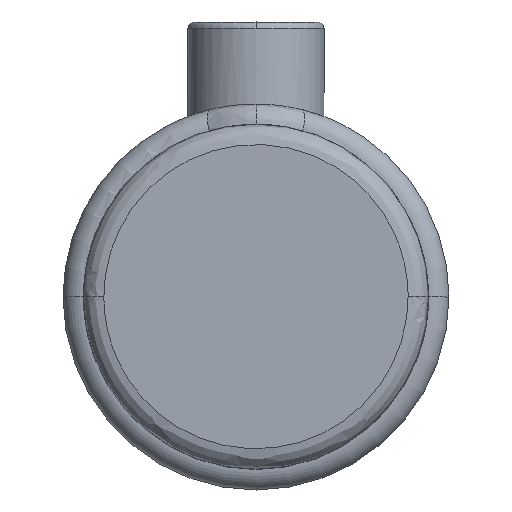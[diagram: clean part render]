
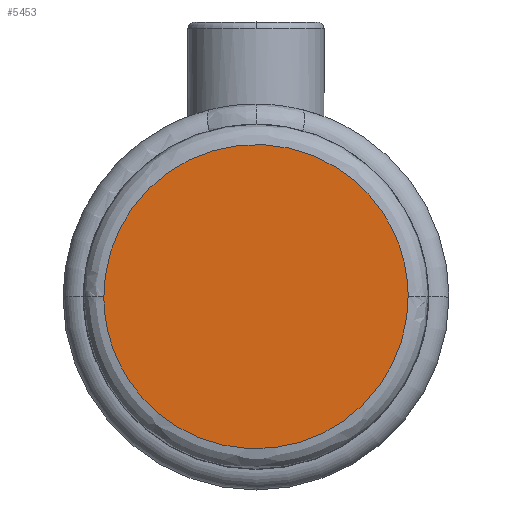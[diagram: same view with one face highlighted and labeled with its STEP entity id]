
A CAD part, top view. The second image highlights one B-rep face of the part: STEP entity #5453.
In plain terms, the highlighted planar face has unit normal (0, 0, 1).
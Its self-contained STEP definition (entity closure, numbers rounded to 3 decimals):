
#384 =( BOUNDED_CURVE ( )  B_SPLINE_CURVE ( 3, ( #7268, #7240, #5404, #1597 ),
 .UNSPECIFIED., .F., .F. ) 
 B_SPLINE_CURVE_WITH_KNOTS ( ( 4, 4 ),
 ( 0.75, 1.25 ),
 .UNSPECIFIED. ) 
 CURVE ( )  GEOMETRIC_REPRESENTATION_ITEM ( )  RATIONAL_B_SPLINE_CURVE ( ( 1., 0.333, 0.333, 1. ) ) 
 REPRESENTATION_ITEM ( '' )  );
#1550 = FACE_OUTER_BOUND ( 'NONE', #3965, .T. ) ;
#1597 = CARTESIAN_POINT ( 'NONE',  ( 22.35, 0., 38. ) ) ;
#2355 = CARTESIAN_POINT ( 'NONE',  ( 0., 12.675, 38. ) ) ;
#2560 = CARTESIAN_POINT ( 'NONE',  ( 22.35, -44.7, 38. ) ) ;
#2938 = VERTEX_POINT ( 'NONE', #7689 ) ;
#2970 = EDGE_CURVE ( 'NONE', #3100, #2938, #6009, .T. ) ;
#3100 = VERTEX_POINT ( 'NONE', #3363 ) ;
#3210 = CARTESIAN_POINT ( 'NONE',  ( -22.35, 0., 38. ) ) ;
#3246 = EDGE_CURVE ( 'NONE', #2938, #3100, #384, .T. ) ;
#3363 = CARTESIAN_POINT ( 'NONE',  ( 22.35, 0., 38. ) ) ;
#3649 = DIRECTION ( 'NONE',  ( 0., 0., 1. ) ) ;
#3965 = EDGE_LOOP ( 'NONE', ( #5724, #6298 ) ) ;
#5404 = CARTESIAN_POINT ( 'NONE',  ( 22.35, 44.7, 38. ) ) ;
#5453 = ADVANCED_FACE ( 'NONE', ( #1550 ), #7416, .T. ) ;
#5721 = CARTESIAN_POINT ( 'NONE',  ( 22.35, 0., 38. ) ) ;
#5724 = ORIENTED_EDGE ( 'NONE', *, *, #2970, .F. ) ;
#6009 =( BOUNDED_CURVE ( )  B_SPLINE_CURVE ( 3, ( #5721, #2560, #6975, #3210 ),
 .UNSPECIFIED., .F., .F. ) 
 B_SPLINE_CURVE_WITH_KNOTS ( ( 4, 4 ),
 ( 0.25, 0.75 ),
 .UNSPECIFIED. ) 
 CURVE ( )  GEOMETRIC_REPRESENTATION_ITEM ( )  RATIONAL_B_SPLINE_CURVE ( ( 1., 0.333, 0.333, 1. ) ) 
 REPRESENTATION_ITEM ( '' )  );
#6298 = ORIENTED_EDGE ( 'NONE', *, *, #3246, .F. ) ;
#6975 = CARTESIAN_POINT ( 'NONE',  ( -22.35, -44.7, 38. ) ) ;
#7240 = CARTESIAN_POINT ( 'NONE',  ( -22.35, 44.7, 38. ) ) ;
#7268 = CARTESIAN_POINT ( 'NONE',  ( -22.35, 0., 38. ) ) ;
#7416 = PLANE ( 'NONE',  #7767 ) ;
#7689 = CARTESIAN_POINT ( 'NONE',  ( -22.35, 0., 38. ) ) ;
#7767 = AXIS2_PLACEMENT_3D ( 'NONE', #2355, #3649, #8055 ) ;
#8055 = DIRECTION ( 'NONE',  ( 0., -1., 0. ) ) ;
